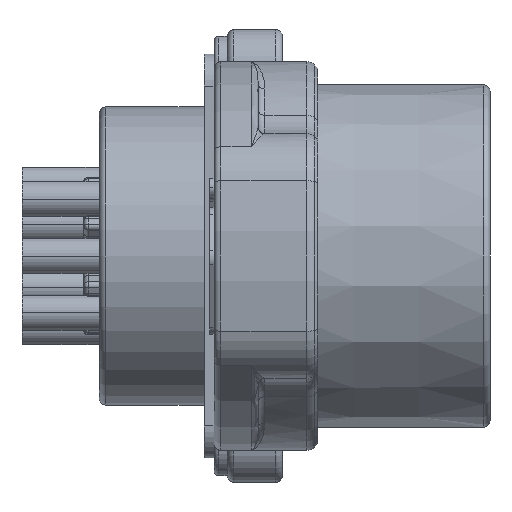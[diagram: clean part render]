
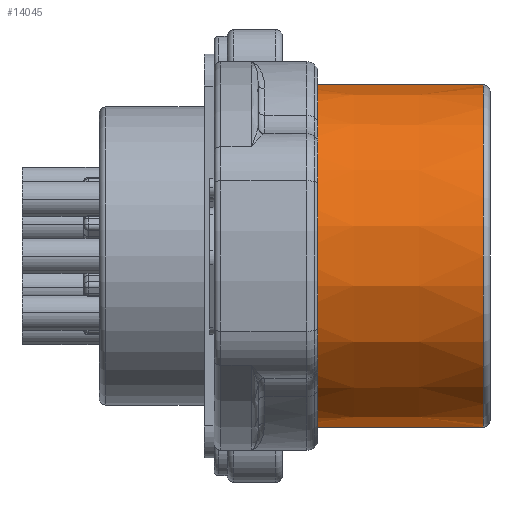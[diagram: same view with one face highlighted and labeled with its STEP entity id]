
A CAD part, front view. The second image highlights one B-rep face of the part: STEP entity #14045.
In plain terms, the highlighted conical face has half-angle 0.3 degrees and reference radius 7.75 mm.
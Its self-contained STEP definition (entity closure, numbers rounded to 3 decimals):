
#176 = DIRECTION ( 'NONE',  ( -1., 0., 0. ) ) ;
#289 = EDGE_CURVE ( 'NONE', #15896, #30333, #33958, .T. ) ;
#2389 = CARTESIAN_POINT ( 'NONE',  ( 0., 0., 0. ) ) ;
#4235 = CARTESIAN_POINT ( 'NONE',  ( -0.298, 0., 0. ) ) ;
#6452 = CARTESIAN_POINT ( 'NONE',  ( -0.298, 0., 7.752 ) ) ;
#6656 = AXIS2_PLACEMENT_3D ( 'NONE', #4235, #176, #33371 ) ;
#8089 = CARTESIAN_POINT ( 'NONE',  ( -9.102, 0., 0. ) ) ;
#8945 = ORIENTED_EDGE ( 'NONE', *, *, #30052, .F. ) ;
#10019 = EDGE_CURVE ( 'NONE', #33627, #15896, #18699, .T. ) ;
#10662 = CARTESIAN_POINT ( 'NONE',  ( 0., 0., -7.75 ) ) ;
#11583 = AXIS2_PLACEMENT_3D ( 'NONE', #2389, #34754, #51738 ) ;
#13425 = DIRECTION ( 'NONE',  ( -1., 0., 0.005 ) ) ;
#14045 = ADVANCED_FACE ( 'NONE', ( #35302 ), #52416, .T. ) ;
#14202 = CARTESIAN_POINT ( 'NONE',  ( -0.298, 0., -7.752 ) ) ;
#14241 = CARTESIAN_POINT ( 'NONE',  ( -9.102, 0., -7.798 ) ) ;
#15896 = VERTEX_POINT ( 'NONE', #6452 ) ;
#16335 = ORIENTED_EDGE ( 'NONE', *, *, #32551, .T. ) ;
#18699 = CIRCLE ( 'NONE', #6656, 7.752 ) ;
#21198 = ORIENTED_EDGE ( 'NONE', *, *, #10019, .T. ) ;
#22540 = LINE ( 'NONE', #10662, #32001 ) ;
#30052 = EDGE_CURVE ( 'NONE', #33627, #41506, #22540, .T. ) ;
#30333 = VERTEX_POINT ( 'NONE', #39233 ) ;
#32001 = VECTOR ( 'NONE', #34969, 1000. ) ;
#32551 = EDGE_CURVE ( 'NONE', #30333, #41506, #42719, .T. ) ;
#33371 = DIRECTION ( 'NONE',  ( 0., 0., -1. ) ) ;
#33627 = VERTEX_POINT ( 'NONE', #14202 ) ;
#33958 = LINE ( 'NONE', #50384, #37007 ) ;
#34754 = DIRECTION ( 'NONE',  ( -1., 0., 0. ) ) ;
#34969 = DIRECTION ( 'NONE',  ( -1., 0., -0.005 ) ) ;
#35302 = FACE_OUTER_BOUND ( 'NONE', #35523, .T. ) ;
#35523 = EDGE_LOOP ( 'NONE', ( #8945, #21198, #43504, #16335 ) ) ;
#37007 = VECTOR ( 'NONE', #13425, 1000. ) ;
#39233 = CARTESIAN_POINT ( 'NONE',  ( -9.102, 0., 7.798 ) ) ;
#41506 = VERTEX_POINT ( 'NONE', #14241 ) ;
#42719 = CIRCLE ( 'NONE', #51289, 7.798 ) ;
#43504 = ORIENTED_EDGE ( 'NONE', *, *, #289, .T. ) ;
#48856 = DIRECTION ( 'NONE',  ( 0., 0., 1. ) ) ;
#50384 = CARTESIAN_POINT ( 'NONE',  ( 0., 0., 7.75 ) ) ;
#51289 = AXIS2_PLACEMENT_3D ( 'NONE', #8089, #53174, #48856 ) ;
#51738 = DIRECTION ( 'NONE',  ( 0., 0., 1. ) ) ;
#52416 = CONICAL_SURFACE ( 'NONE', #11583, 7.75, 0.005 ) ;
#53174 = DIRECTION ( 'NONE',  ( 1., 0., 0. ) ) ;
